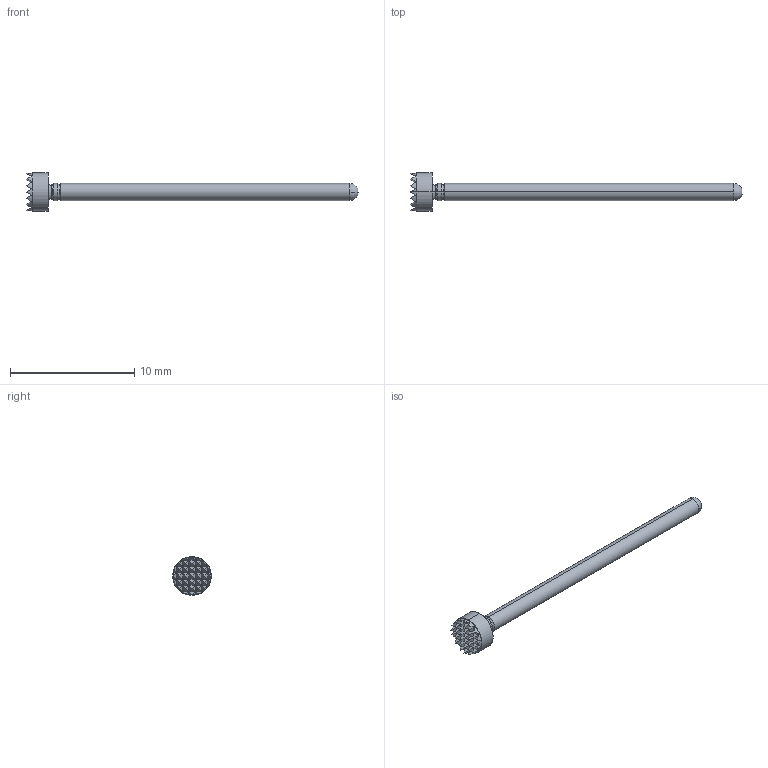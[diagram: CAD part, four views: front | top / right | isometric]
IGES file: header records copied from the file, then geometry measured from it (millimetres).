
Start section: SolidWorks IGES file using analytic representation for surfaces
Global section: file name: C:\Users\mrumschlag\Desktop\changes\new\test\POGO-25HM FULL.IGS; native system: SolidWorks 2011; preprocessor: SolidWorks 2011; author: mrumschlag; date: 110714.155428; units: inch
Bounding box: 26.67 x 3.1 x 3.1 mm (x, y, z)
Surface area: 143.8 mm2 (no closed solid volume)
Topology: 0 solids, 0 shells, 176 faces, 778 edges, 778 vertices
Faces by surface type: bspline 160, revolution 16
